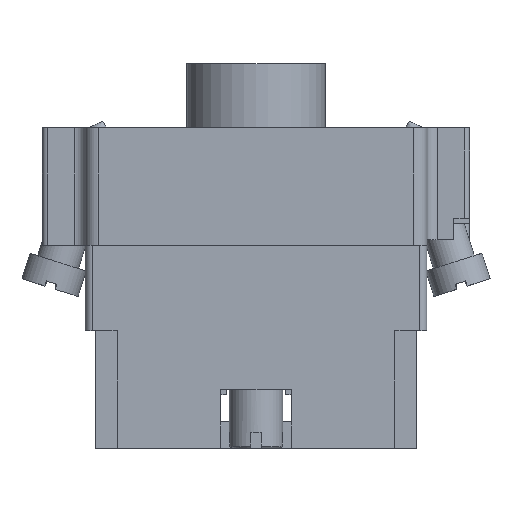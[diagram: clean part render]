
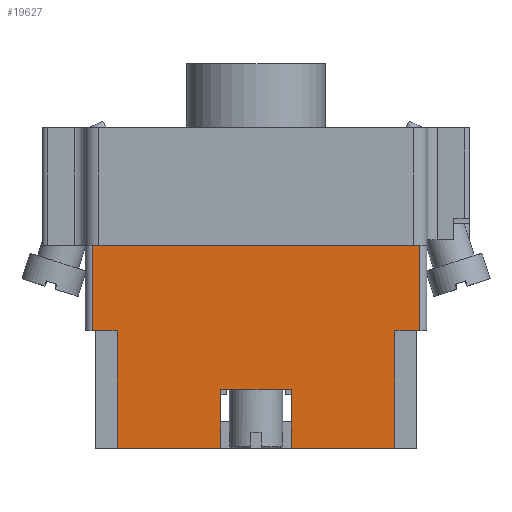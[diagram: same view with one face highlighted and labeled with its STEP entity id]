
A CAD part, left-side view. The second image highlights one B-rep face of the part: STEP entity #19627.
In plain terms, the highlighted planar face has unit normal (-1, 0, 0) as drawn and (0, -1, 0) by its records, which use the part's own axes.
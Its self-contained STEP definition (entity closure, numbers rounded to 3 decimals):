
#10 = DIRECTION ( 'NONE',  ( 0., 0., 1. ) ) ;
#60 = VERTEX_POINT ( 'NONE', #10002 ) ;
#192 = VECTOR ( 'NONE', #23175, 1000. ) ;
#727 = LINE ( 'NONE', #4156, #15690 ) ;
#790 = EDGE_CURVE ( 'NONE', #3596, #23500, #12434, .T. ) ;
#977 = EDGE_CURVE ( 'NONE', #22529, #24331, #18343, .T. ) ;
#1165 = VECTOR ( 'NONE', #22403, 1000. ) ;
#1206 = CARTESIAN_POINT ( 'NONE',  ( 3.3, -15., 5.5 ) ) ;
#1313 = DIRECTION ( 'NONE',  ( 0., 0., -1. ) ) ;
#1670 = VERTEX_POINT ( 'NONE', #3968 ) ;
#1777 = DIRECTION ( 'NONE',  ( 0., 1., 0. ) ) ;
#1803 = EDGE_CURVE ( 'NONE', #18450, #5531, #19509, .T. ) ;
#1828 = ORIENTED_EDGE ( 'NONE', *, *, #22192, .T. ) ;
#1878 = ORIENTED_EDGE ( 'NONE', *, *, #22607, .T. ) ;
#1957 = VECTOR ( 'NONE', #12058, 1000. ) ;
#2307 = EDGE_LOOP ( 'NONE', ( #18364, #1878, #3420, #15134, #6404, #21876, #20433, #3884, #23504, #23844, #17602, #10813, #1828 ) ) ;
#2486 = VECTOR ( 'NONE', #15546, 1000. ) ;
#3420 = ORIENTED_EDGE ( 'NONE', *, *, #977, .T. ) ;
#3596 = VERTEX_POINT ( 'NONE', #12212 ) ;
#3771 = FACE_OUTER_BOUND ( 'NONE', #2307, .T. ) ;
#3884 = ORIENTED_EDGE ( 'NONE', *, *, #6899, .F. ) ;
#3968 = CARTESIAN_POINT ( 'NONE',  ( -13., -15., 0. ) ) ;
#4156 = CARTESIAN_POINT ( 'NONE',  ( -3.3, -15., 5.5 ) ) ;
#4458 = DIRECTION ( 'NONE',  ( 1., 0., 0. ) ) ;
#4503 = CARTESIAN_POINT ( 'NONE',  ( 0., -15., 5.5 ) ) ;
#4870 = CARTESIAN_POINT ( 'NONE',  ( -3.3, -15., 0. ) ) ;
#5531 = VERTEX_POINT ( 'NONE', #14438 ) ;
#5929 = EDGE_CURVE ( 'NONE', #1670, #17361, #16933, .T. ) ;
#6333 = VECTOR ( 'NONE', #19081, 1000. ) ;
#6358 = EDGE_CURVE ( 'NONE', #60, #12614, #21429, .T. ) ;
#6404 = ORIENTED_EDGE ( 'NONE', *, *, #5929, .T. ) ;
#6899 = EDGE_CURVE ( 'NONE', #8264, #11421, #727, .T. ) ;
#7995 = LINE ( 'NONE', #11245, #12974 ) ;
#8040 = EDGE_CURVE ( 'NONE', #18450, #23500, #10180, .T. ) ;
#8264 = VERTEX_POINT ( 'NONE', #1206 ) ;
#8431 = CARTESIAN_POINT ( 'NONE',  ( -3.3, -15., 5.5 ) ) ;
#9107 = CARTESIAN_POINT ( 'NONE',  ( 15.3, -15., 19. ) ) ;
#9892 = CARTESIAN_POINT ( 'NONE',  ( 13., -15., 11. ) ) ;
#10002 = CARTESIAN_POINT ( 'NONE',  ( -15.3, -15., 19. ) ) ;
#10021 = LINE ( 'NONE', #14895, #15591 ) ;
#10180 = LINE ( 'NONE', #9892, #192 ) ;
#10813 = ORIENTED_EDGE ( 'NONE', *, *, #1803, .T. ) ;
#10888 = DIRECTION ( 'NONE',  ( 0., 0., -1. ) ) ;
#11121 = LINE ( 'NONE', #20469, #1165 ) ;
#11245 = CARTESIAN_POINT ( 'NONE',  ( 15.3, -15., 11. ) ) ;
#11421 = VERTEX_POINT ( 'NONE', #4503 ) ;
#11766 = LINE ( 'NONE', #23895, #21308 ) ;
#11873 = CARTESIAN_POINT ( 'NONE',  ( 16., -15., 11. ) ) ;
#12058 = DIRECTION ( 'NONE',  ( 1., 0., 0. ) ) ;
#12080 = EDGE_CURVE ( 'NONE', #24331, #1670, #14099, .T. ) ;
#12212 = CARTESIAN_POINT ( 'NONE',  ( 3.3, -15., 0. ) ) ;
#12434 = LINE ( 'NONE', #15287, #2486 ) ;
#12614 = VERTEX_POINT ( 'NONE', #9107 ) ;
#12974 = VECTOR ( 'NONE', #10, 1000. ) ;
#13682 = CARTESIAN_POINT ( 'NONE',  ( 13., -15., 0. ) ) ;
#14099 = LINE ( 'NONE', #16092, #23074 ) ;
#14261 = AXIS2_PLACEMENT_3D ( 'NONE', #24368, #1777, #14856 ) ;
#14438 = CARTESIAN_POINT ( 'NONE',  ( 15.3, -15., 11. ) ) ;
#14786 = PLANE ( 'NONE',  #14261 ) ;
#14856 = DIRECTION ( 'NONE',  ( -1., 0., 0. ) ) ;
#14895 = CARTESIAN_POINT ( 'NONE',  ( 3.3, -15., 5.5 ) ) ;
#15134 = ORIENTED_EDGE ( 'NONE', *, *, #12080, .T. ) ;
#15219 = VECTOR ( 'NONE', #24005, 1000. ) ;
#15287 = CARTESIAN_POINT ( 'NONE',  ( 14.5, -15., 0. ) ) ;
#15303 = VECTOR ( 'NONE', #4458, 1000. ) ;
#15546 = DIRECTION ( 'NONE',  ( 1., 0., 0. ) ) ;
#15591 = VECTOR ( 'NONE', #16831, 1000. ) ;
#15690 = VECTOR ( 'NONE', #17279, 1000. ) ;
#16092 = CARTESIAN_POINT ( 'NONE',  ( -13., -15., 11. ) ) ;
#16831 = DIRECTION ( 'NONE',  ( 0., 0., -1. ) ) ;
#16933 = LINE ( 'NONE', #23377, #1957 ) ;
#17143 = EDGE_CURVE ( 'NONE', #8264, #3596, #10021, .T. ) ;
#17158 = CARTESIAN_POINT ( 'NONE',  ( 16., -15., 19. ) ) ;
#17279 = DIRECTION ( 'NONE',  ( -1., 0., 0. ) ) ;
#17361 = VERTEX_POINT ( 'NONE', #4870 ) ;
#17602 = ORIENTED_EDGE ( 'NONE', *, *, #8040, .F. ) ;
#17747 = VECTOR ( 'NONE', #22522, 1000. ) ;
#17863 = VERTEX_POINT ( 'NONE', #8431 ) ;
#18289 = CARTESIAN_POINT ( 'NONE',  ( -13., -15., 11. ) ) ;
#18343 = LINE ( 'NONE', #21767, #17747 ) ;
#18364 = ORIENTED_EDGE ( 'NONE', *, *, #6358, .F. ) ;
#18450 = VERTEX_POINT ( 'NONE', #22149 ) ;
#18534 = EDGE_CURVE ( 'NONE', #11421, #17863, #11121, .T. ) ;
#19081 = DIRECTION ( 'NONE',  ( 1., 0., 0. ) ) ;
#19490 = CARTESIAN_POINT ( 'NONE',  ( -15.3, -15., 11. ) ) ;
#19509 = LINE ( 'NONE', #11873, #15303 ) ;
#19627 = ADVANCED_FACE ( 'NONE', ( #3771 ), #14786, .F. ) ;
#20331 = LINE ( 'NONE', #22123, #15219 ) ;
#20433 = ORIENTED_EDGE ( 'NONE', *, *, #18534, .F. ) ;
#20469 = CARTESIAN_POINT ( 'NONE',  ( -3.3, -15., 5.5 ) ) ;
#21308 = VECTOR ( 'NONE', #1313, 1000. ) ;
#21429 = LINE ( 'NONE', #17158, #6333 ) ;
#21767 = CARTESIAN_POINT ( 'NONE',  ( 16., -15., 11. ) ) ;
#21876 = ORIENTED_EDGE ( 'NONE', *, *, #23732, .F. ) ;
#22123 = CARTESIAN_POINT ( 'NONE',  ( -3.3, -15., 5.5 ) ) ;
#22149 = CARTESIAN_POINT ( 'NONE',  ( 13., -15., 11. ) ) ;
#22192 = EDGE_CURVE ( 'NONE', #5531, #12614, #7995, .T. ) ;
#22403 = DIRECTION ( 'NONE',  ( -1., 0., 0. ) ) ;
#22522 = DIRECTION ( 'NONE',  ( 1., 0., 0. ) ) ;
#22529 = VERTEX_POINT ( 'NONE', #19490 ) ;
#22607 = EDGE_CURVE ( 'NONE', #60, #22529, #11766, .T. ) ;
#23074 = VECTOR ( 'NONE', #10888, 1000. ) ;
#23175 = DIRECTION ( 'NONE',  ( 0., 0., -1. ) ) ;
#23377 = CARTESIAN_POINT ( 'NONE',  ( 14.5, -15., 0. ) ) ;
#23500 = VERTEX_POINT ( 'NONE', #13682 ) ;
#23504 = ORIENTED_EDGE ( 'NONE', *, *, #17143, .T. ) ;
#23732 = EDGE_CURVE ( 'NONE', #17863, #17361, #20331, .T. ) ;
#23844 = ORIENTED_EDGE ( 'NONE', *, *, #790, .T. ) ;
#23895 = CARTESIAN_POINT ( 'NONE',  ( -15.3, -15., 11. ) ) ;
#24005 = DIRECTION ( 'NONE',  ( 0., 0., -1. ) ) ;
#24331 = VERTEX_POINT ( 'NONE', #18289 ) ;
#24368 = CARTESIAN_POINT ( 'NONE',  ( 14.5, -15., 11. ) ) ;
